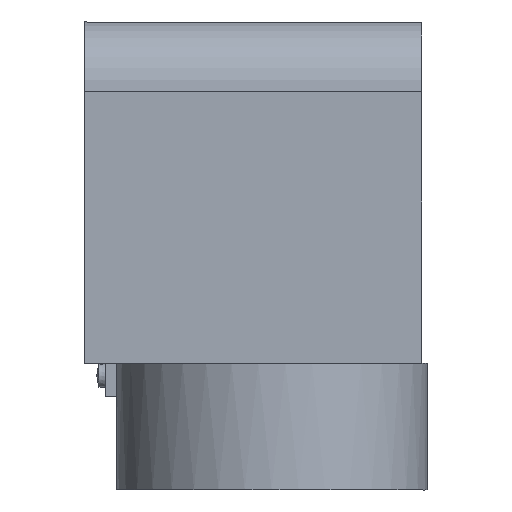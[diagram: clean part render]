
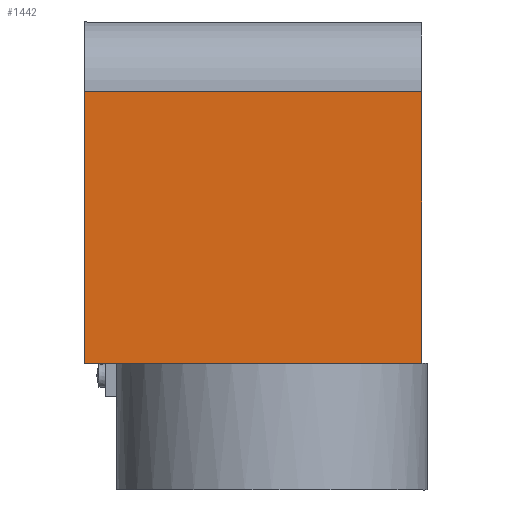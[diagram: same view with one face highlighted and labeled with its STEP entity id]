
A CAD part, front view. The second image highlights one B-rep face of the part: STEP entity #1442.
In plain terms, the highlighted planar face has unit normal (0, -1, 0).
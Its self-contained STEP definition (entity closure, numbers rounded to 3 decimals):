
#108=PLANE('',#1634);
#219=FACE_OUTER_BOUND('',#344,.T.);
#344=EDGE_LOOP('',(#1323,#1324,#1325,#1326));
#368=LINE('',#2231,#474);
#371=LINE('',#2240,#477);
#432=LINE('',#2436,#538);
#436=LINE('',#2442,#542);
#474=VECTOR('',#1791,10.);
#477=VECTOR('',#1802,10.);
#538=VECTOR('',#1995,10.);
#542=VECTOR('',#2003,10.);
#680=VERTEX_POINT('',#2228);
#681=VERTEX_POINT('',#2230);
#683=VERTEX_POINT('',#2239);
#752=VERTEX_POINT('',#2434);
#819=EDGE_CURVE('',#681,#680,#368,.T.);
#824=EDGE_CURVE('',#681,#683,#371,.T.);
#921=EDGE_CURVE('',#680,#752,#432,.T.);
#925=EDGE_CURVE('',#683,#752,#436,.T.);
#1323=ORIENTED_EDGE('',*,*,#921,.T.);
#1324=ORIENTED_EDGE('',*,*,#925,.F.);
#1325=ORIENTED_EDGE('',*,*,#824,.F.);
#1326=ORIENTED_EDGE('',*,*,#819,.T.);
#1442=ADVANCED_FACE('',(#219),#108,.F.);
#1634=AXIS2_PLACEMENT_3D('',#2509,#2095,#2096);
#1791=DIRECTION('',(0.,0.,1.));
#1802=DIRECTION('',(-1.,0.,0.));
#1995=DIRECTION('',(-1.,0.,0.));
#2003=DIRECTION('',(0.,0.,1.));
#2095=DIRECTION('center_axis',(0.,1.,0.));
#2096=DIRECTION('ref_axis',(-1.,0.,0.));
#2228=CARTESIAN_POINT('',(43.,-74.4,114.));
#2230=CARTESIAN_POINT('',(43.,-74.4,36.3));
#2231=CARTESIAN_POINT('',(43.,-74.4,37.3));
#2239=CARTESIAN_POINT('',(-53.5,-74.4,36.3));
#2240=CARTESIAN_POINT('',(42.,-74.4,36.3));
#2434=CARTESIAN_POINT('',(-53.5,-74.4,114.));
#2436=CARTESIAN_POINT('',(-5.25,-74.4,114.));
#2442=CARTESIAN_POINT('',(-53.5,-74.4,37.3));
#2509=CARTESIAN_POINT('Origin',(42.,-74.4,37.3));
